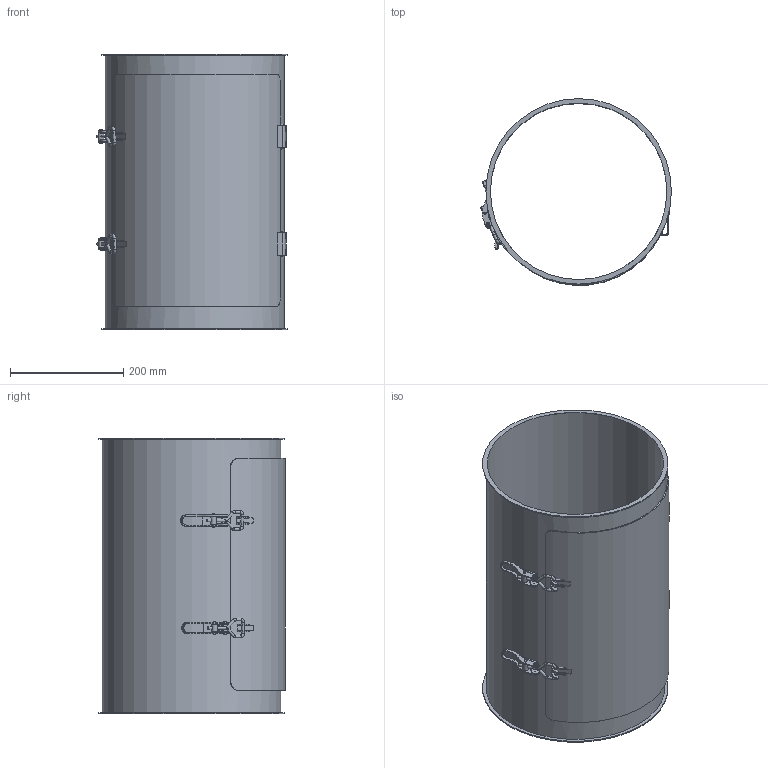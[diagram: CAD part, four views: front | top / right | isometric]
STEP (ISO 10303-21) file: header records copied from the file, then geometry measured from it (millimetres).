
FILE_DESCRIPTION((''),'2;1');
FILE_NAME('U:\Wolfgang\Marcel-3D\fertig\Kapitel 4\3121142.stp','2011-04-21T08:22:31',('TK1'),(''),'Autodesk Inventor 2010','Autodesk Inventor 2010','');
FILE_SCHEMA(('AUTOMOTIVE_DESIGN { 1 0 10303 214 1 1 1 1 }'));
Length unit declared in the file: millimetre
Products named in the file (14): 3121142; 3121142-Rohr; Gelenk31; Verschluss3121142; Verschluss31a; Verschluss1b; Verschluss1c; Verschluss1d; Verschluss1e; Deckel31; 3121142 Halterung2; 3121142 verschluss; 3121142-Deckel; 3121142 Halterung3
Assembly tree (19 placements, depth 3):
  3121142
    3121142-Rohr
    Gelenk31  x2
    Verschluss3121142  x2
      Verschluss31a
      Verschluss1b
      Verschluss1c
      Verschluss1d
      Verschluss1e
    Deckel31
      3121142 Halterung2  x2
      3121142 verschluss  x2
      3121142-Deckel
    3121142 Halterung3  x2
Bounding box: 337.38 x 329.49 x 488 mm (x, y, z)
Volume: 1110649.4 mm3; surface area: 1124454.5 mm2
Topology: 22 solids, 22 shells, 336 faces, 803 edges, 519 vertices
Faces by surface type: plane 159, cylinder 148, torus 18, bspline 7, sphere 4
Full cylindrical faces by diameter (mm): 2 x8, 4 x8, 5 x12, 6 x12, 6.2 x4, 10 x2, 312 x1, 316 x1, 328 x2
Entity records: 5681 total; most frequent: CARTESIAN_POINT 1176, DIRECTION 922, ORIENTED_EDGE 770, EDGE_CURVE 385, AXIS2_PLACEMENT_3D 356, VERTEX_POINT 270, EDGE_LOOP 243, VECTOR 210
